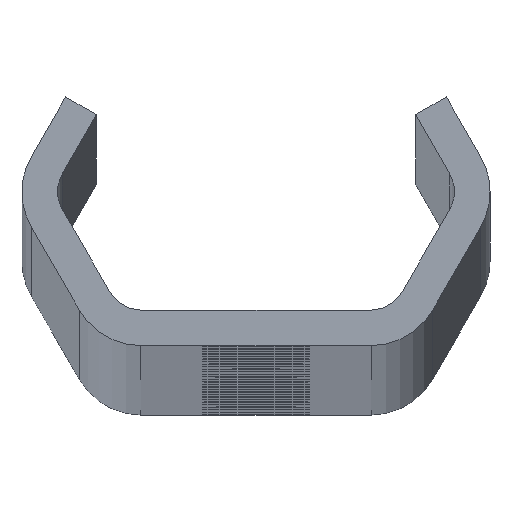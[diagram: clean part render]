
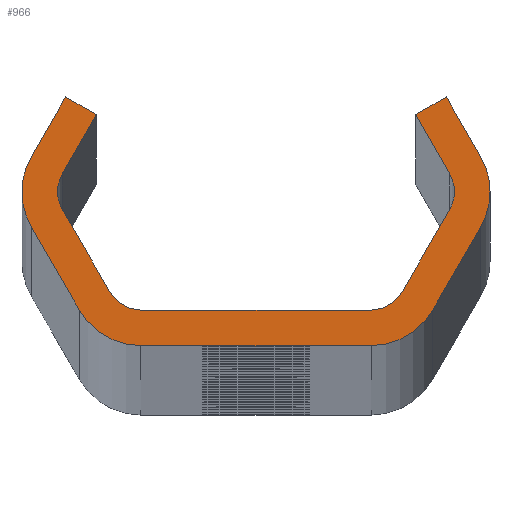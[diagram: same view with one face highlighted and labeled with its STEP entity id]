
A CAD part, top view. The second image highlights one B-rep face of the part: STEP entity #966.
In plain terms, the highlighted planar face has unit normal (0, 0, 1).
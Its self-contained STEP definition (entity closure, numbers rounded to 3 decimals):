
#966=ADVANCED_FACE('NONE',(#2710),#2711,.F.);
#2710=FACE_OUTER_BOUND('',#8918,.T.);
#2711=PLANE('',#8919);
#8918=EDGE_LOOP('',(#18112,#18113,#18114,#18115,#18116,#18117,#18118,#18119,#18120,#18121,#18122,#18123,#18124,#18125,#18126,#18127,#18128,#18129,#18130,#18131,#18132,#18133,#18134,#18135));
#8919=AXIS2_PLACEMENT_3D('',#18136,#18137,#18138);
#18112=ORIENTED_EDGE('',*,*,#24173,.T.);
#18113=ORIENTED_EDGE('',*,*,#24226,.T.);
#18114=ORIENTED_EDGE('',*,*,#23678,.T.);
#18115=ORIENTED_EDGE('',*,*,#24175,.T.);
#18116=ORIENTED_EDGE('',*,*,#24227,.T.);
#18117=ORIENTED_EDGE('',*,*,#24179,.T.);
#18118=ORIENTED_EDGE('',*,*,#24228,.T.);
#18119=ORIENTED_EDGE('',*,*,#23685,.T.);
#18120=ORIENTED_EDGE('',*,*,#24229,.T.);
#18121=ORIENTED_EDGE('',*,*,#23241,.T.);
#18122=ORIENTED_EDGE('',*,*,#23688,.T.);
#18123=ORIENTED_EDGE('',*,*,#23694,.T.);
#18124=ORIENTED_EDGE('',*,*,#23697,.T.);
#18125=ORIENTED_EDGE('',*,*,#23675,.T.);
#18126=ORIENTED_EDGE('',*,*,#24230,.T.);
#18127=ORIENTED_EDGE('',*,*,#23699,.T.);
#18128=ORIENTED_EDGE('',*,*,#24231,.T.);
#18129=ORIENTED_EDGE('',*,*,#23706,.T.);
#18130=ORIENTED_EDGE('',*,*,#24232,.T.);
#18131=ORIENTED_EDGE('',*,*,#24160,.T.);
#18132=ORIENTED_EDGE('',*,*,#24233,.T.);
#18133=ORIENTED_EDGE('',*,*,#23236,.T.);
#18134=ORIENTED_EDGE('',*,*,#24163,.T.);
#18135=ORIENTED_EDGE('',*,*,#24169,.T.);
#18136=CARTESIAN_POINT('',(0.0,0.0,3360.0));
#18137=DIRECTION('',(0.0,0.0,-1.0));
#18138=DIRECTION('',(0.0,-1.0,0.0));
#23236=EDGE_CURVE('NONE',#25880,#25884,#25886,.T.);
#23241=EDGE_CURVE('NONE',#25889,#25893,#25895,.T.);
#23675=EDGE_CURVE('NONE',#26676,#26674,#26677,.T.);
#23678=EDGE_CURVE('NONE',#26680,#26681,#26682,.T.);
#23685=EDGE_CURVE('NONE',#26694,#26692,#26695,.T.);
#23688=EDGE_CURVE('NONE',#25893,#26698,#26699,.T.);
#23694=EDGE_CURVE('NONE',#26698,#26706,#26708,.T.);
#23697=EDGE_CURVE('NONE',#26706,#26676,#26711,.T.);
#23699=EDGE_CURVE('NONE',#26713,#26714,#26715,.T.);
#23706=EDGE_CURVE('NONE',#26727,#26725,#26728,.T.);
#24160=EDGE_CURVE('NONE',#27570,#27568,#27571,.T.);
#24163=EDGE_CURVE('NONE',#25884,#27574,#27575,.T.);
#24169=EDGE_CURVE('NONE',#27574,#27582,#27584,.T.);
#24173=EDGE_CURVE('NONE',#27582,#27588,#27590,.T.);
#24175=EDGE_CURVE('NONE',#26681,#27592,#27593,.T.);
#24179=EDGE_CURVE('NONE',#27598,#27599,#27600,.T.);
#24226=EDGE_CURVE('NONE',#27588,#26680,#27649,.T.);
#24227=EDGE_CURVE('NONE',#27592,#27598,#27650,.T.);
#24228=EDGE_CURVE('NONE',#27599,#26694,#27651,.T.);
#24229=EDGE_CURVE('NONE',#26692,#25889,#27652,.T.);
#24230=EDGE_CURVE('NONE',#26674,#26713,#27653,.T.);
#24231=EDGE_CURVE('NONE',#26714,#26727,#27654,.T.);
#24232=EDGE_CURVE('NONE',#26725,#27570,#27655,.T.);
#24233=EDGE_CURVE('NONE',#27568,#25880,#27656,.T.);
#25880=VERTEX_POINT('',#29798);
#25884=VERTEX_POINT('NONE',#29803);
#25886=CIRCLE('',#29806,3.0);
#25889=VERTEX_POINT('',#29809);
#25893=VERTEX_POINT('NONE',#29814);
#25895=CIRCLE('',#29817,6.0);
#26674=VERTEX_POINT('NONE',#34530);
#26676=VERTEX_POINT('NONE',#34533);
#26677=CIRCLE('',#34534,3.0);
#26680=VERTEX_POINT('NONE',#34538);
#26681=VERTEX_POINT('NONE',#34539);
#26682=CIRCLE('',#34540,6.0);
#26692=VERTEX_POINT('NONE',#34553);
#26694=VERTEX_POINT('NONE',#34556);
#26695=LINE('',#34557,#34558);
#26698=VERTEX_POINT('NONE',#34562);
#26699=LINE('',#34563,#34564);
#26706=VERTEX_POINT('NONE',#34574);
#26708=LINE('',#34577,#34578);
#26711=LINE('',#34582,#34583);
#26713=VERTEX_POINT('NONE',#34585);
#26714=VERTEX_POINT('NONE',#34586);
#26715=LINE('',#34587,#34588);
#26725=VERTEX_POINT('NONE',#34602);
#26727=VERTEX_POINT('NONE',#34605);
#26728=LINE('',#34606,#34607);
#27568=VERTEX_POINT('NONE',#37649);
#27570=VERTEX_POINT('NONE',#37652);
#27571=LINE('',#37653,#37654);
#27574=VERTEX_POINT('NONE',#37658);
#27575=LINE('',#37659,#37660);
#27582=VERTEX_POINT('NONE',#37670);
#27584=LINE('',#37673,#37674);
#27588=VERTEX_POINT('NONE',#37679);
#27590=LINE('',#37682,#37683);
#27592=VERTEX_POINT('NONE',#37685);
#27593=LINE('',#37686,#37687);
#27598=VERTEX_POINT('NONE',#37694);
#27599=VERTEX_POINT('NONE',#37695);
#27600=LINE('',#37696,#37697);
#27649=CIRCLE('',#37749,6.0);
#27650=CIRCLE('',#37750,6.0);
#27651=CIRCLE('',#37751,6.0);
#27652=CIRCLE('',#37752,6.0);
#27653=CIRCLE('',#37753,3.0);
#27654=CIRCLE('',#37754,3.0);
#27655=CIRCLE('',#37755,3.0);
#27656=CIRCLE('',#37756,3.0);
#29798=CARTESIAN_POINT('',(-16.764,0.,3360.0));
#29803=CARTESIAN_POINT('',(-16.362,1.5,3360.0));
#29806=AXIS2_PLACEMENT_3D('',#44851,#44852,#44853);
#29809=CARTESIAN_POINT('',(19.764,0.,3360.0));
#29814=CARTESIAN_POINT('',(18.96,3.,3360.0));
#29817=AXIS2_PLACEMENT_3D('',#44859,#44860,#44861);
#34530=CARTESIAN_POINT('',(16.764,0.,3360.0));
#34533=CARTESIAN_POINT('',(16.362,1.5,3360.0));
#34534=AXIS2_PLACEMENT_3D('',#45290,#45291,#45292);
#34538=CARTESIAN_POINT('',(-19.764,0.,3360.0));
#34539=CARTESIAN_POINT('',(-18.96,-3.,3360.0));
#34540=AXIS2_PLACEMENT_3D('',#45294,#45295,#45296);
#34553=CARTESIAN_POINT('',(18.96,-3.,3360.0));
#34556=CARTESIAN_POINT('',(14.919,-10.,3360.0));
#34557=CARTESIAN_POINT('',(20.692,0.,3360.0));
#34558=VECTOR('',#45304,1000.0);
#34562=CARTESIAN_POINT('',(16.074,8.,3360.0));
#34563=CARTESIAN_POINT('',(16.074,8.,3360.0));
#34564=VECTOR('',#45306,1000.0);
#34574=CARTESIAN_POINT('',(13.475,6.5,3360.0));
#34577=CARTESIAN_POINT('',(13.475,6.5,3360.0));
#34578=VECTOR('',#45311,1000.0);
#34582=CARTESIAN_POINT('',(17.228,0.,3360.0));
#34583=VECTOR('',#45313,1000.0);
#34585=CARTESIAN_POINT('',(16.362,-1.5,3360.0));
#34586=CARTESIAN_POINT('',(12.321,-8.5,3360.0));
#34587=CARTESIAN_POINT('',(11.455,-10.0,3360.0));
#34588=VECTOR('',#45314,1000.0);
#34602=CARTESIAN_POINT('',(-9.723,-10.0,3360.0));
#34605=CARTESIAN_POINT('',(9.723,-10.0,3360.0));
#34606=CARTESIAN_POINT('',(-11.455,-10.0,3360.0));
#34607=VECTOR('',#45320,1000.0);
#37649=CARTESIAN_POINT('',(-16.362,-1.5,3360.0));
#37652=CARTESIAN_POINT('',(-12.321,-8.5,3360.0));
#37653=CARTESIAN_POINT('',(-17.228,0.,3360.0));
#37654=VECTOR('',#45813,1000.0);
#37658=CARTESIAN_POINT('',(-13.475,6.5,3360.0));
#37659=CARTESIAN_POINT('',(-13.475,6.5,3360.0));
#37660=VECTOR('',#45815,1000.0);
#37670=CARTESIAN_POINT('',(-16.074,8.,3360.0));
#37673=CARTESIAN_POINT('',(-13.475,6.5,3360.0));
#37674=VECTOR('',#45820,1000.0);
#37679=CARTESIAN_POINT('',(-18.96,3.,3360.0));
#37682=CARTESIAN_POINT('',(-16.074,8.,3360.0));
#37683=VECTOR('',#45823,1000.0);
#37685=CARTESIAN_POINT('',(-14.919,-10.,3360.0));
#37686=CARTESIAN_POINT('',(-20.692,0.,3360.0));
#37687=VECTOR('',#45824,1000.0);
#37694=CARTESIAN_POINT('',(-9.723,-13.0,3360.0));
#37695=CARTESIAN_POINT('',(9.723,-13.0,3360.0));
#37696=CARTESIAN_POINT('',(-13.187,-13.0,3360.0));
#37697=VECTOR('',#45827,1000.0);
#37749=AXIS2_PLACEMENT_3D('',#45957,#45958,#45959);
#37750=AXIS2_PLACEMENT_3D('',#45960,#45961,#45962);
#37751=AXIS2_PLACEMENT_3D('',#45963,#45964,#45965);
#37752=AXIS2_PLACEMENT_3D('',#45966,#45967,#45968);
#37753=AXIS2_PLACEMENT_3D('',#45969,#45970,#45971);
#37754=AXIS2_PLACEMENT_3D('',#45972,#45973,#45974);
#37755=AXIS2_PLACEMENT_3D('',#45975,#45976,#45977);
#37756=AXIS2_PLACEMENT_3D('',#45978,#45979,#45980);
#44851=CARTESIAN_POINT('',(-13.764,0.,3360.0));
#44852=DIRECTION('',(0.0,0.0,-1.0));
#44853=DIRECTION('',(-1.0,0.0,0.0));
#44859=CARTESIAN_POINT('',(13.764,0.,3360.0));
#44860=DIRECTION('',(0.0,0.0,1.0));
#44861=DIRECTION('',(-1.0,0.0,0.0));
#45290=CARTESIAN_POINT('',(13.764,0.,3360.0));
#45291=DIRECTION('',(0.0,0.0,-1.0));
#45292=DIRECTION('',(-1.0,0.0,0.0));
#45294=CARTESIAN_POINT('',(-13.764,0.,3360.0));
#45295=DIRECTION('',(0.0,0.0,1.0));
#45296=DIRECTION('',(-1.0,0.0,0.0));
#45304=DIRECTION('',(0.5,0.866,-0.0));
#45306=DIRECTION('',(-0.5,0.866,-0.0));
#45311=DIRECTION('',(-0.866,-0.5,-0.0));
#45313=DIRECTION('',(0.5,-0.866,-0.0));
#45314=DIRECTION('',(-0.5,-0.866,-0.0));
#45320=DIRECTION('',(-1.0,0.,-0.0));
#45813=DIRECTION('',(-0.5,0.866,-0.0));
#45815=DIRECTION('',(0.5,0.866,-0.0));
#45820=DIRECTION('',(-0.866,0.5,0.0));
#45823=DIRECTION('',(-0.5,-0.866,0.0));
#45824=DIRECTION('',(0.5,-0.866,0.0));
#45827=DIRECTION('',(1.0,0.0,0.0));
#45957=CARTESIAN_POINT('',(-13.764,0.,3360.0));
#45958=DIRECTION('',(0.0,0.0,1.0));
#45959=DIRECTION('',(-1.0,0.0,0.0));
#45960=CARTESIAN_POINT('',(-9.723,-7.0,3360.0));
#45961=DIRECTION('',(0.0,0.0,1.0));
#45962=DIRECTION('',(-1.0,0.0,0.0));
#45963=CARTESIAN_POINT('',(9.723,-7.0,3360.0));
#45964=DIRECTION('',(0.0,0.0,1.0));
#45965=DIRECTION('',(-1.0,0.,0.0));
#45966=CARTESIAN_POINT('',(13.764,0.,3360.0));
#45967=DIRECTION('',(0.0,0.0,1.0));
#45968=DIRECTION('',(-1.0,0.0,0.0));
#45969=CARTESIAN_POINT('',(13.764,0.,3360.0));
#45970=DIRECTION('',(0.0,0.0,-1.0));
#45971=DIRECTION('',(-1.0,0.0,0.0));
#45972=CARTESIAN_POINT('',(9.723,-7.0,3360.0));
#45973=DIRECTION('',(0.0,0.0,-1.0));
#45974=DIRECTION('',(-1.0,0.0,0.0));
#45975=CARTESIAN_POINT('',(-9.723,-7.0,3360.0));
#45976=DIRECTION('',(0.0,0.0,-1.0));
#45977=DIRECTION('',(-1.0,0.0,0.0));
#45978=CARTESIAN_POINT('',(-13.764,0.,3360.0));
#45979=DIRECTION('',(0.0,0.0,-1.0));
#45980=DIRECTION('',(-1.0,0.0,0.0));
